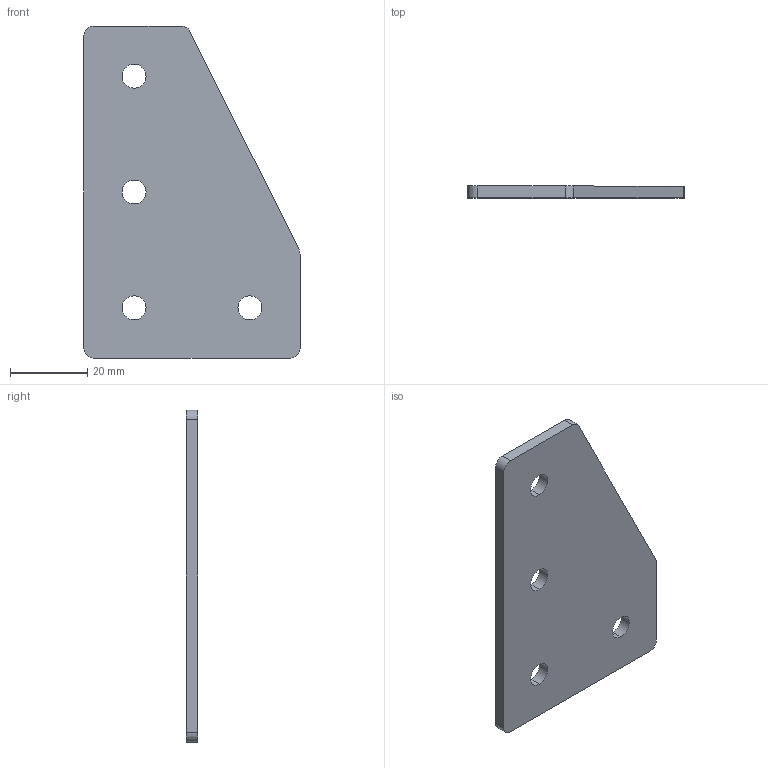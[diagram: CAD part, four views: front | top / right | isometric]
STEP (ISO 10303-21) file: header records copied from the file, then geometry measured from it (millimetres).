
FILE_DESCRIPTION (( 'STEP AP214' ), '1' );
FILE_NAME ('ﾃ-4-ﾓ-30 S3.STEP', '2015-10-16T09:28:04', ( '' ), ( '' ), 'SwSTEP 2.0', 'SolidWorks 2014', '' );
FILE_SCHEMA (( 'AUTOMOTIVE_DESIGN' ));
Length unit declared in the file: millimetre
Products named in the file (1): ﾃ-4-ﾓ-30 S3
Bounding box: 56 x 3 x 86 mm (x, y, z)
Volume: 11508.1 mm3; surface area: 8680.1 mm2
Topology: 1 solids, 1 shells, 20 faces, 54 edges, 36 vertices
Faces by surface type: cylinder 13, plane 7
Entity records: 694 total; most frequent: DIRECTION 122, CARTESIAN_POINT 111, ORIENTED_EDGE 108, EDGE_CURVE 54, AXIS2_PLACEMENT_3D 47, VERTEX_POINT 36, EDGE_LOOP 28, LINE 28
